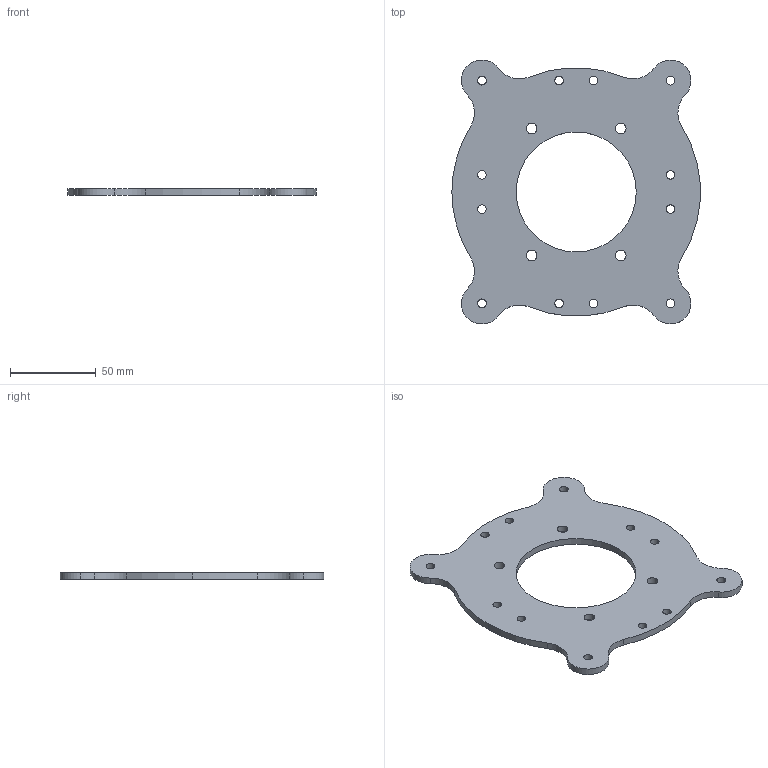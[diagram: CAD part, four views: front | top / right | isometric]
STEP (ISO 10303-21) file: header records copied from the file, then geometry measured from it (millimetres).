
FILE_DESCRIPTION (( 'STEP AP203' ), '1' );
FILE_NAME ('SIP-160B.STEP', '2024-05-09T06:19:44', ( '微软用户' ), ( '微软中国' ), 'SwSTEP 2.0', 'SolidWorks 2018', '' );
FILE_SCHEMA (( 'CONFIG_CONTROL_DESIGN' ));
Length unit declared in the file: millimetre
Products named in the file (1): SIP-160B
Bounding box: 144.77 x 153.95 x 4 mm (x, y, z)
Volume: 58585.3 mm3; surface area: 33611.9 mm2
Topology: 1 solids, 1 shells, 57 faces, 165 edges, 110 vertices
Faces by surface type: cylinder 55, plane 2
Entity records: 2094 total; most frequent: DIRECTION 391, CARTESIAN_POINT 333, ORIENTED_EDGE 330, AXIS2_PLACEMENT_3D 168, EDGE_CURVE 165, CIRCLE 110, VERTEX_POINT 110, EDGE_LOOP 91
